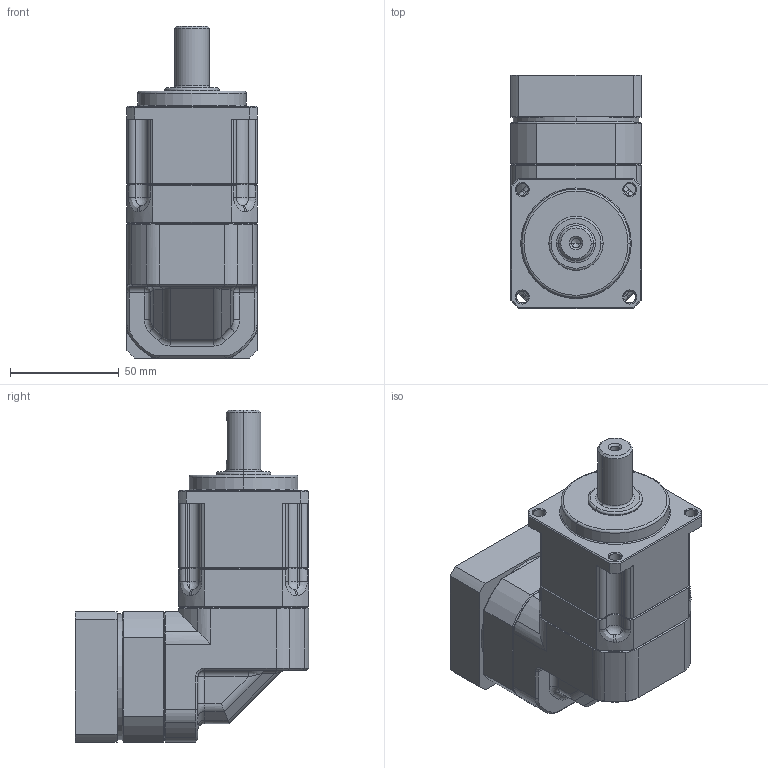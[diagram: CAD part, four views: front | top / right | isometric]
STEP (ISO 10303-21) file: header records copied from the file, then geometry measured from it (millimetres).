
FILE_DESCRIPTION (( 'STEP AP214' ), '1' );
FILE_NAME ('PAR060-L1-S2-P1 14-50-70-M5.STEP', '2025-01-11T02:29:40', ( '微软用户' ), ( '微软中国' ), 'SwSTEP 2.0', 'SolidWorks 2021', '' );
FILE_SCHEMA (( 'AUTOMOTIVE_DESIGN' ));
Length unit declared in the file: millimetre
Products named in the file (1): PAR060-L1-S2-P1 14-50-70-M5
Bounding box: 60 x 107.5 x 153 mm (x, y, z)
Volume: 468476.9 mm3; surface area: 52175.8 mm2
Topology: 1 solids, 1 shells, 368 faces, 857 edges, 501 vertices
Faces by surface type: cylinder 134, plane 104, cone 94, torus 18, bspline 16, sphere 2
Entity records: 11405 total; most frequent: CARTESIAN_POINT 3064, DIRECTION 1805, ORIENTED_EDGE 1706, EDGE_CURVE 853, AXIS2_PLACEMENT_3D 722, VERTEX_POINT 501, EDGE_LOOP 390, CIRCLE 369
